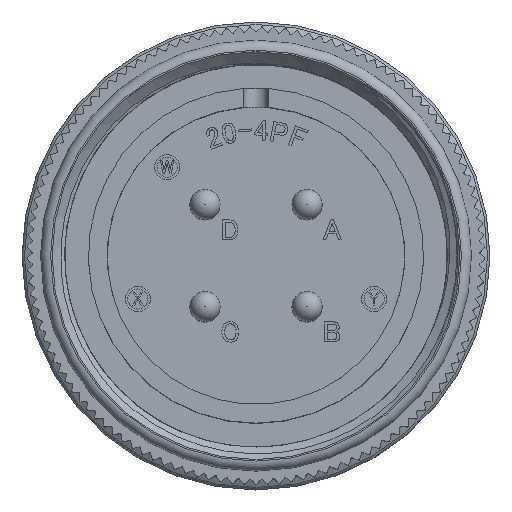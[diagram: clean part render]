
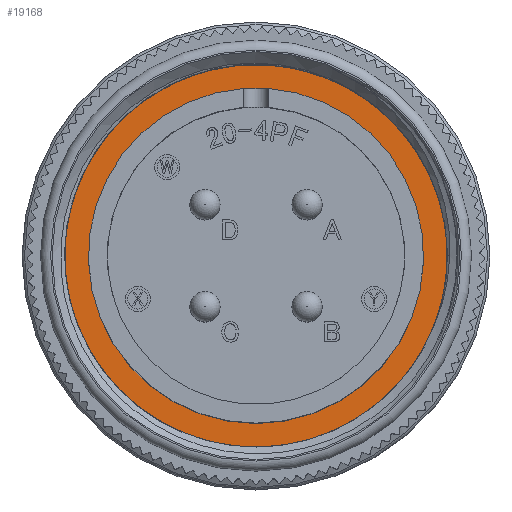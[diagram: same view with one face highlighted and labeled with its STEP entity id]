
A CAD part, top view. The second image highlights one B-rep face of the part: STEP entity #19168.
In plain terms, the highlighted planar face has unit normal (0, 0, 1).
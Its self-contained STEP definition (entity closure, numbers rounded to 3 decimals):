
#107 = DIRECTION ( 'NONE',  ( 1., 0., 0. ) ) ;
#1207 = EDGE_CURVE ( 'NONE', #69186, #70466, #58320, .T. ) ;
#1566 = ORIENTED_EDGE ( 'NONE', *, *, #26453, .F. ) ;
#3439 = EDGE_LOOP ( 'NONE', ( #30975, #27162, #49084, #59063 ) ) ;
#9618 = VERTEX_POINT ( 'NONE', #35727 ) ;
#11226 = AXIS2_PLACEMENT_3D ( 'NONE', #20297, #37612, #43309 ) ;
#12302 = FACE_OUTER_BOUND ( 'NONE', #3439, .T. ) ;
#13522 = CIRCLE ( 'NONE', #55221, 15.335 ) ;
#15235 = CARTESIAN_POINT ( 'NONE',  ( -13.407, 7.403, -16.66 ) ) ;
#15759 = DIRECTION ( 'NONE',  ( -1., 0., 0. ) ) ;
#16491 = AXIS2_PLACEMENT_3D ( 'NONE', #43728, #60856, #15759 ) ;
#16542 = EDGE_CURVE ( 'NONE', #68146, #22347, #70645, .T. ) ;
#19168 = ADVANCED_FACE ( 'NONE', ( #42387, #12302 ), #32744, .F. ) ;
#20297 = CARTESIAN_POINT ( 'NONE',  ( 0., 0., -16.66 ) ) ;
#20900 = DIRECTION ( 'NONE',  ( 0., 0., -1. ) ) ;
#22347 = VERTEX_POINT ( 'NONE', #31864 ) ;
#25813 = CIRCLE ( 'NONE', #72170, 13.335 ) ;
#26339 = CARTESIAN_POINT ( 'NONE',  ( -12.193, 9.176, -16.66 ) ) ;
#26453 = EDGE_CURVE ( 'NONE', #70466, #69186, #25813, .T. ) ;
#27162 = ORIENTED_EDGE ( 'NONE', *, *, #16542, .T. ) ;
#28103 = CARTESIAN_POINT ( 'NONE',  ( -1., 13.297, -16.66 ) ) ;
#28273 = CARTESIAN_POINT ( 'NONE',  ( 8.817, 12.53, -16.66 ) ) ;
#29074 = DIRECTION ( 'NONE',  ( 0., 0., 1. ) ) ;
#30975 = ORIENTED_EDGE ( 'NONE', *, *, #60264, .T. ) ;
#31580 = CARTESIAN_POINT ( 'NONE',  ( 9.399, 12.117, -16.66 ) ) ;
#31864 = CARTESIAN_POINT ( 'NONE',  ( 5.661, 14.133, -16.66 ) ) ;
#32744 = PLANE ( 'NONE',  #36674 ) ;
#33025 = CARTESIAN_POINT ( 'NONE',  ( -14.051, 6.142, -16.66 ) ) ;
#34383 = CARTESIAN_POINT ( 'NONE',  ( 0., 0., -16.66 ) ) ;
#35727 = CARTESIAN_POINT ( 'NONE',  ( -11.722, 9.716, -16.66 ) ) ;
#36674 = AXIS2_PLACEMENT_3D ( 'NONE', #44369, #20900, #55332 ) ;
#37612 = DIRECTION ( 'NONE',  ( 0., 0., 1. ) ) ;
#42387 = FACE_BOUND ( 'NONE', #70985, .T. ) ;
#43309 = DIRECTION ( 'NONE',  ( 1., 0., 0. ) ) ;
#43728 = CARTESIAN_POINT ( 'NONE',  ( 0., 0., -16.66 ) ) ;
#44369 = CARTESIAN_POINT ( 'NONE',  ( 0., 15.335, -16.66 ) ) ;
#45266 = DIRECTION ( 'NONE',  ( 1., 0., 0. ) ) ;
#49084 = ORIENTED_EDGE ( 'NONE', *, *, #73288, .T. ) ;
#50287 = EDGE_CURVE ( 'NONE', #9618, #64637, #63651, .T. ) ;
#50400 = CARTESIAN_POINT ( 'NONE',  ( 7.911, 13.089, -16.66 ) ) ;
#51119 = CARTESIAN_POINT ( 'NONE',  ( 5.661, 14.133, -16.66 ) ) ;
#52102 = CARTESIAN_POINT ( 'NONE',  ( -14.051, 6.142, -16.66 ) ) ;
#54864 = CARTESIAN_POINT ( 'NONE',  ( -12.625, 8.604, -16.66 ) ) ;
#55221 = AXIS2_PLACEMENT_3D ( 'NONE', #34383, #67608, #45266 ) ;
#55332 = DIRECTION ( 'NONE',  ( -1., 0., 0. ) ) ;
#57366 = CARTESIAN_POINT ( 'NONE',  ( 0., 0., -16.66 ) ) ;
#57903 = ORIENTED_EDGE ( 'NONE', *, *, #1207, .F. ) ;
#58320 = CIRCLE ( 'NONE', #11226, 13.335 ) ;
#59063 = ORIENTED_EDGE ( 'NONE', *, *, #50287, .T. ) ;
#60264 = EDGE_CURVE ( 'NONE', #64637, #68146, #13522, .T. ) ;
#60856 = DIRECTION ( 'NONE',  ( 0., 0., 1. ) ) ;
#61570 = CARTESIAN_POINT ( 'NONE',  ( 6.33, 13.885, -16.66 ) ) ;
#61818 = CARTESIAN_POINT ( 'NONE',  ( 9.399, 12.117, -16.66 ) ) ;
#63651 = B_SPLINE_CURVE_WITH_KNOTS ( 'NONE', 3,
 ( #66735, #26339, #54864, #15235, #66485, #33025 ),
 .UNSPECIFIED., .F., .F.,
 ( 4, 2, 4 ),
 ( 0., 0.002, 0.004 ),
 .UNSPECIFIED. ) ;
#64637 = VERTEX_POINT ( 'NONE', #52102 ) ;
#66485 = CARTESIAN_POINT ( 'NONE',  ( -13.751, 6.783, -16.66 ) ) ;
#66735 = CARTESIAN_POINT ( 'NONE',  ( -11.722, 9.716, -16.66 ) ) ;
#67463 = CARTESIAN_POINT ( 'NONE',  ( 6.976, 13.593, -16.66 ) ) ;
#67608 = DIRECTION ( 'NONE',  ( 0., 0., 1. ) ) ;
#67967 = CARTESIAN_POINT ( 'NONE',  ( 8.217, 12.91, -16.66 ) ) ;
#68146 = VERTEX_POINT ( 'NONE', #31580 ) ;
#68513 = CARTESIAN_POINT ( 'NONE',  ( 1., 13.297, -16.66 ) ) ;
#69186 = VERTEX_POINT ( 'NONE', #68513 ) ;
#70466 = VERTEX_POINT ( 'NONE', #28103 ) ;
#70645 = B_SPLINE_CURVE_WITH_KNOTS ( 'NONE', 3,
 ( #61818, #73422, #28273, #67967, #50400, #67463, #61570, #51119 ),
 .UNSPECIFIED., .F., .F.,
 ( 4, 2, 2, 4 ),
 ( 0.012, 0.013, 0.014, 0.017 ),
 .UNSPECIFIED. ) ;
#70985 = EDGE_LOOP ( 'NONE', ( #57903, #1566 ) ) ;
#71245 = CIRCLE ( 'NONE', #16491, 15.225 ) ;
#72170 = AXIS2_PLACEMENT_3D ( 'NONE', #57366, #29074, #107 ) ;
#73288 = EDGE_CURVE ( 'NONE', #22347, #9618, #71245, .T. ) ;
#73422 = CARTESIAN_POINT ( 'NONE',  ( 9.112, 12.328, -16.66 ) ) ;
